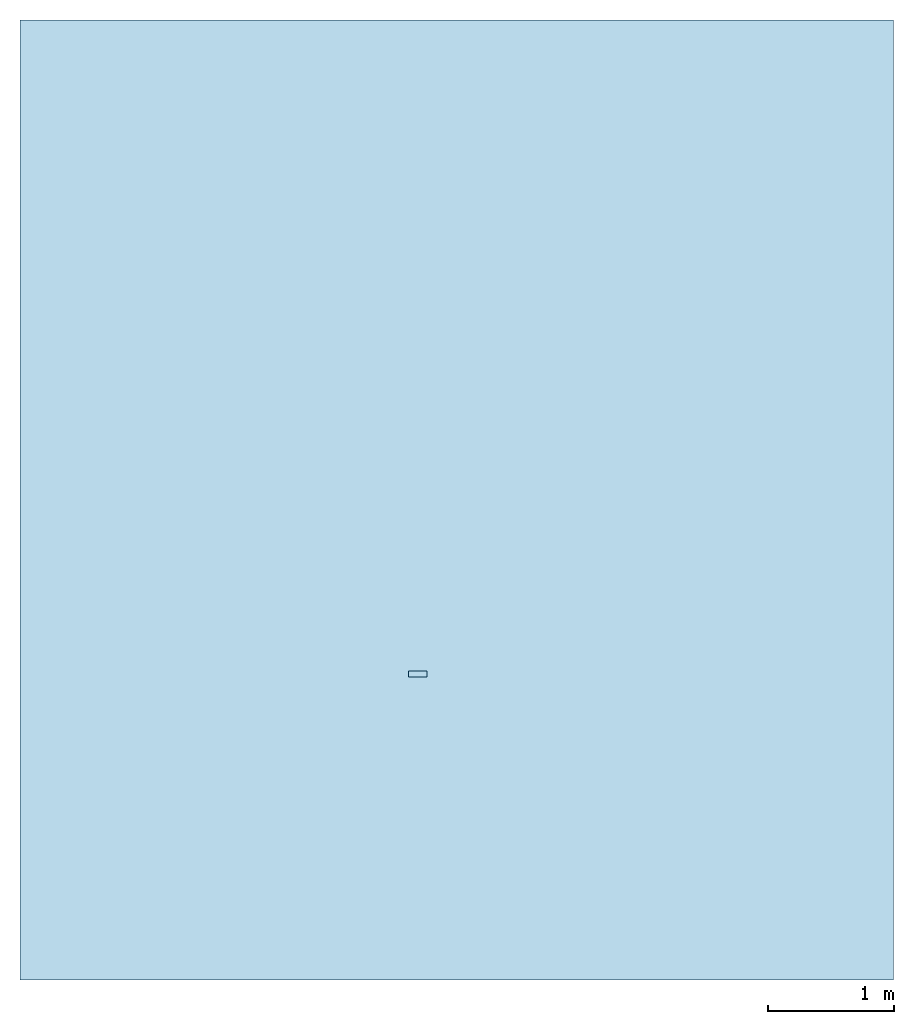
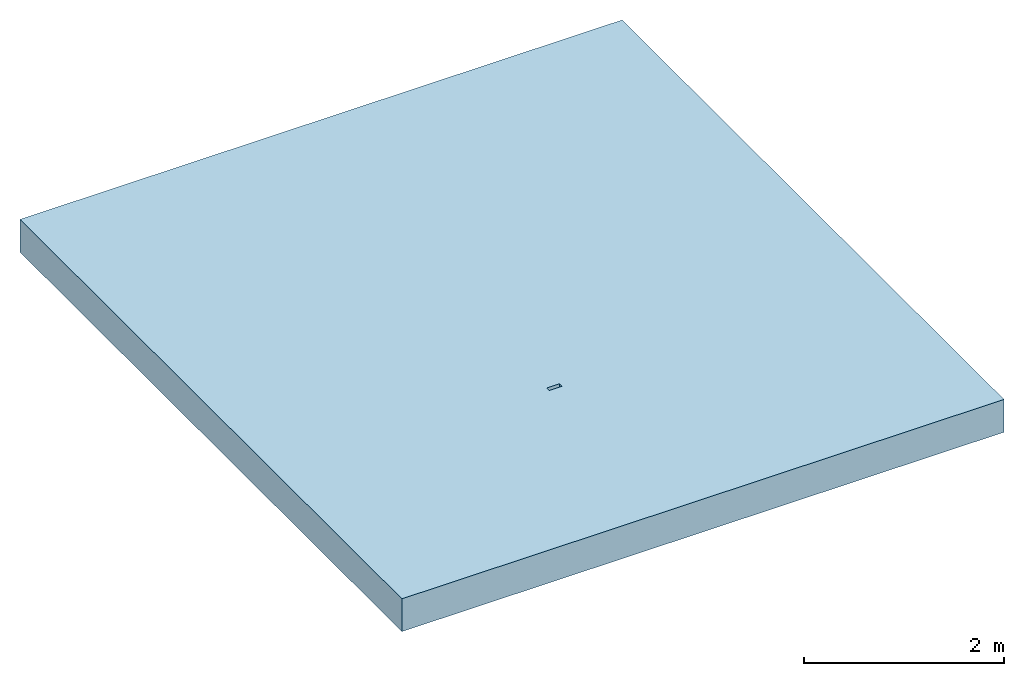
# One storey: 1 slab, 1 opening.
"""IFC2X3 building model written with IfcOpenShell, lengths in millimetres."""

from ifc_helpers import new_model, entity, si_unit, converted_unit, direction, frame, frame_2d, origin, place, context, subcontext, project, spatial, rectangle, extrude, faceted_brep, material, layer, layer_set, layer_usage, element, save


model = new_model("IFC2X3")

# Units and contexts
model_context = context("Model", 3, precision=1e-06, world=origin(), true_north=direction((2.0, 6.12303176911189e-17, 1.0)))
context_of_model = context(None, 3, precision=1e-06, world=origin(), true_north=direction((2.0, 6.12303176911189e-17, 1.0)))
body_context = subcontext(model_context, "Body", "Model", "MODEL_VIEW")
ifc_project = project(units=[si_unit("LENGTHUNIT", "METRE", prefix="MILLI"), si_unit("AREAUNIT", "SQUARE_METRE", prefix="MILLI"), si_unit("VOLUMEUNIT", "CUBIC_METRE", prefix="MILLI"), converted_unit("PLANEANGLEUNIT", "DEGREE", entity("IfcRatioMeasure", 0.0174532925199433), si_unit("PLANEANGLEUNIT", "RADIAN"), dimensions=[0, 0, 0, 0, 0, 0, 0]), si_unit("TIMEUNIT", "SECOND")], contexts=[model_context, context_of_model])

# Site, building, storey
site_placement = place(None, origin())
site = spatial("IfcSite", under=ifc_project, at=site_placement, Name="Default", CompositionType="ELEMENT")
building_placement = place(site_placement, origin())
building = spatial("IfcBuilding", under=site, at=building_placement, CompositionType="ELEMENT")
storey_placement = place(building_placement, origin())
storey = spatial("IfcBuildingStorey", under=building, at=storey_placement, Name="Level 1", CompositionType="ELEMENT", Elevation=0.0)

# Slab, opening
ifc_material = material(Name="Default Floor")
ifc_layer = layer(ifc_material, 400.0)
ifc_layer_set = layer_set([ifc_layer], Name="Floor:Generic Floor - 400mm")
ifc_layer_usage = layer_usage(ifc_layer_set, "AXIS3", "POSITIVE", 0.0)
slab_placement = place(storey_placement, frame((-7426.51252910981, -9304.1683846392, -400.0)))
slab = element("IfcSlab", 1, at=slab_placement, inside=storey, material=ifc_layer_usage, Name="Floor:Generic Floor - 400mm", ObjectType="Floor:Generic Floor - 400mm", PredefinedType="FLOOR", context=body_context, shape_type="SweptSolid", body=[
    extrude(rectangle(XDim=7632.29114211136, YDim=6946.28644627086, at=frame_2d((0.0, 0.0), x_axis=(0.0, -1.0))), frame((3473.14322313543, 3816.14557105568, 400.0), z_axis=(0.0, 0.0, -1.0), x_axis=(-1.0, 0.0, 0.0)), (0.0, 0.0, 1.0), 400.0),
])
opening_placement = place(slab_placement, frame((3087.30196513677, 2407.61816494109, 220.0)))
element("IfcOpeningElement", 2, at=opening_placement, cuts=slab, ObjectType="Recess", context=body_context, shape_type="Brep", body=[
    faceted_brep([(0.0, 0.0, 180.0), (0.0, 50.0, 180.0), (150.0, 50.0, 180.0), (150.0, 0.0, 180.0), (0.0, 50.0, 0.0), (0.0, 0.0, 0.0), (150.0, 0.0, 0.0), (150.0, 50.0, 0.0), (89.2350474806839, 50.0, 128.12287538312), (102.500000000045, 50.0, 122.628352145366), (113.890872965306, 50.0, 113.887827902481), (75.0, 50.0, 129.996954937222), (128.125920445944, 50.0, 89.2320024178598), (130.0, 50.0, 74.9969549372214), (122.631397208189, 50.0, 102.496954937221), (60.7649525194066, 50.0, 128.122875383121), (47.5000000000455, 50.0, 122.628352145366), (36.1091270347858, 50.0, 113.887827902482), (21.8740795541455, 50.0, 89.2320024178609), (27.3686027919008, 50.0, 102.496954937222), (20.0, 50.0, 74.9969549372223), (128.125920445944, 50.0, 60.7619074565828), (122.631397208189, 50.0, 47.4969549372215), (113.890872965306, 50.0, 36.1060819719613), (89.2350474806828, 50.0, 21.8710344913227), (102.500000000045, 50.0, 27.3655577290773), (75.0, 50.0, 19.9969549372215), (27.3686027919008, 50.0, 47.4969549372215), (21.8740795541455, 50.0, 60.7619074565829), (60.7649525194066, 50.0, 21.8710344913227), (47.5000000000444, 50.0, 27.3655577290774), (36.1091270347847, 50.0, 36.1060819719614), (89.2350474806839, 100.0, 128.12287538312), (75.0, 100.0, 129.996954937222), (102.500000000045, 100.0, 122.628352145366), (113.890872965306, 100.0, 113.887827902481), (122.631397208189, 100.0, 102.496954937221), (130.0, 100.0, 74.9969549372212), (128.125920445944, 100.0, 89.2320024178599), (36.1091270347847, 100.0, 113.887827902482), (47.5000000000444, 100.0, 122.628352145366), (60.7649525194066, 100.0, 128.122875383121), (27.3686027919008, 100.0, 102.496954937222), (21.8740795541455, 100.0, 89.2320024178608), (20.0, 100.0, 74.9969549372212), (128.125920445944, 100.0, 60.7619074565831), (122.631397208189, 100.0, 47.4969549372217), (75.0, 100.0, 19.9969549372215), (113.890872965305, 100.0, 36.1060819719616), (89.2350474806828, 100.0, 21.8710344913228), (102.500000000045, 100.0, 27.3655577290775), (60.7649525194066, 100.0, 21.8710344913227), (21.8740795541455, 100.0, 60.7619074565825), (27.3686027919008, 100.0, 47.4969549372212), (36.1091270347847, 100.0, 36.1060819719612), (47.5000000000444, 100.0, 27.3655577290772)], [[[0, 1, 2]], [[2, 3, 0]], [[4, 5, 6]], [[6, 7, 4]], [[8, 9, 2]], [[10, 2, 9]], [[11, 8, 2]], [[2, 12, 13]], [[2, 10, 14]], [[2, 14, 12]], [[13, 7, 2]], [[15, 11, 1]], [[2, 1, 11]], [[16, 15, 1]], [[1, 17, 16]], [[1, 18, 19]], [[1, 19, 17]], [[20, 18, 1]], [[7, 21, 22]], [[7, 22, 23]], [[24, 7, 25]], [[23, 25, 7]], [[7, 24, 26]], [[26, 4, 7]], [[7, 13, 21]], [[4, 27, 28]], [[4, 28, 20]], [[4, 29, 30]], [[27, 4, 31]], [[30, 31, 4]], [[4, 26, 29]], [[1, 4, 20]], [[7, 3, 2]], [[3, 7, 6]], [[5, 0, 3]], [[3, 6, 5]], [[5, 1, 0]], [[1, 5, 4]], [[32, 33, 34]], [[35, 34, 36]], [[37, 38, 36]], [[36, 34, 39]], [[37, 36, 39]], [[40, 39, 41]], [[34, 33, 41]], [[42, 43, 39]], [[39, 34, 41]], [[43, 44, 39]], [[45, 37, 39]], [[46, 45, 47]], [[48, 46, 49]], [[46, 47, 49]], [[50, 48, 49]], [[47, 39, 51]], [[52, 53, 44]], [[53, 39, 44]], [[54, 55, 53]], [[51, 53, 55]], [[39, 53, 51]], [[45, 39, 47]], [[38, 37, 12]], [[36, 38, 14]], [[32, 34, 9]], [[33, 32, 8]], [[12, 14, 38]], [[37, 13, 12]], [[9, 35, 10]], [[36, 14, 10]], [[34, 35, 9]], [[9, 8, 32]], [[35, 36, 10]], [[8, 11, 33]], [[40, 41, 15]], [[40, 16, 39]], [[43, 42, 19]], [[17, 42, 39]], [[44, 43, 18]], [[11, 15, 41]], [[15, 16, 40]], [[16, 17, 39]], [[17, 19, 42]], [[43, 19, 18]], [[18, 20, 44]], [[33, 11, 41]], [[44, 28, 52]], [[52, 27, 53]], [[29, 47, 51]], [[53, 31, 54]], [[28, 27, 52]], [[44, 20, 28]], [[29, 55, 30]], [[54, 31, 30]], [[29, 51, 55]], [[53, 27, 31]], [[30, 55, 54]], [[29, 26, 47]], [[50, 49, 24]], [[50, 25, 48]], [[45, 46, 22]], [[23, 46, 48]], [[37, 45, 21]], [[26, 24, 49]], [[24, 25, 50]], [[25, 23, 48]], [[23, 22, 46]], [[45, 22, 21]], [[21, 13, 37]], [[47, 26, 49]]]),
])

save(model, "model.ifc")
